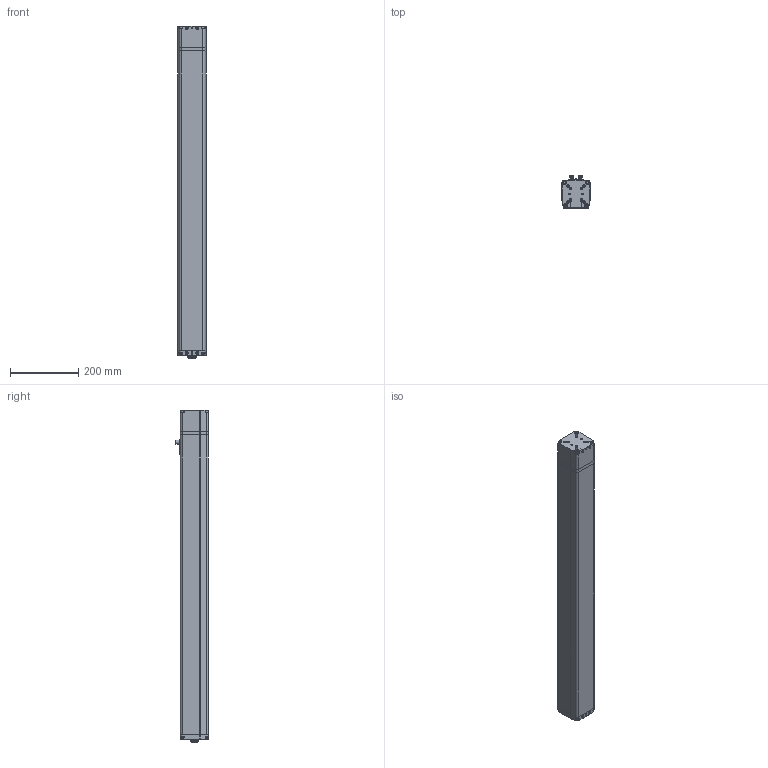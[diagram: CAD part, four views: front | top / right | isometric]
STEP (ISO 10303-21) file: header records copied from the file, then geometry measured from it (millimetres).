
FILE_DESCRIPTION (( 'STEP AP203' ), '1' );
FILE_NAME ('CTC-080-K__-____-_.step', '2023-09-29T10:01:58', ( '' ), ( '' ), 'SwSTEP 2.0', 'SolidWorks 2020', '' );
FILE_SCHEMA (( 'CONFIG_CONTROL_DESIGN' ));
Length unit declared in the file: millimetre
Products named in the file (4): CTC-080_Aufsatz-I_M10; CTC-080-K__-____-_; CTC-080_housing_Hub_0800; CTC-080_Schubrohr_Hub 0800
Assembly tree (3 placements, depth 2):
  CTC-080-K__-____-_
    CTC-080_housing_Hub_0800
    CTC-080_Schubrohr_Hub 0800
    CTC-080_Aufsatz-I_M10
Bounding box: 82 x 96.3 x 972 mm (x, y, z)
Volume: 5489084 mm3; surface area: 657284.8 mm2
Topology: 30 solids, 30 shells, 794 faces, 1773 edges, 1092 vertices
Faces by surface type: cylinder 305, plane 297, cone 116, torus 68, sphere 8
Entity records: 22301 total; most frequent: DIRECTION 4133, CARTESIAN_POINT 3791, ORIENTED_EDGE 3478, EDGE_CURVE 1739, AXIS2_PLACEMENT_3D 1630, VERTEX_POINT 1092, EDGE_LOOP 889, VECTOR 873
